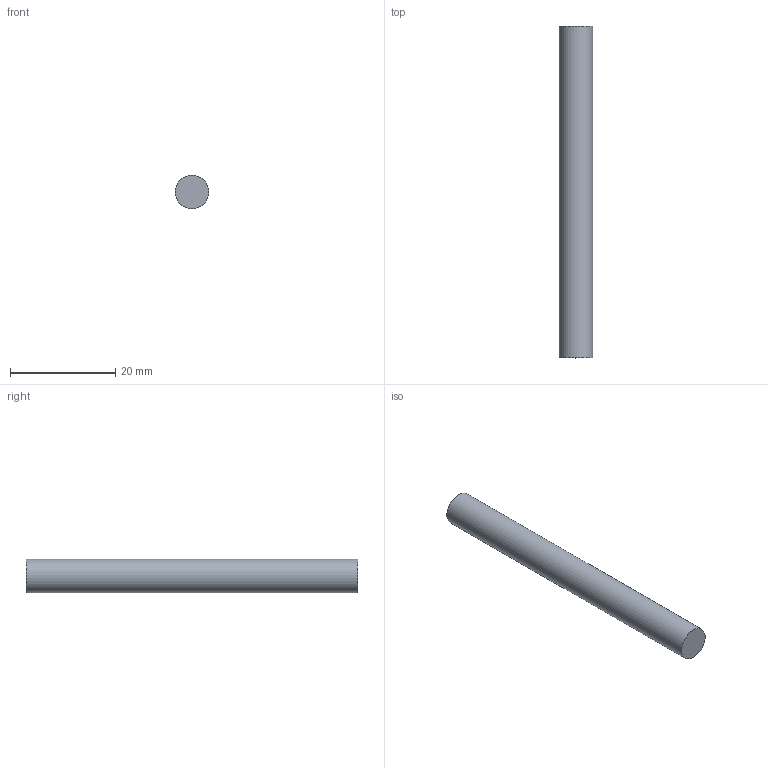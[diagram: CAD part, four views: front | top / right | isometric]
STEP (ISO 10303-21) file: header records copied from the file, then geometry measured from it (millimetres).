
FILE_DESCRIPTION(('Open CASCADE Model'),'2;1');
FILE_NAME('Open CASCADE Shape Model','2026-10-16T02:10:56',('Author'),( 'Open CASCADE'),'Open CASCADE STEP processor 7.9','Open CASCADE 7.9' ,'Unknown');
FILE_SCHEMA(('AUTOMOTIVE_DESIGN { 1 0 10303 214 1 1 1 1 }'));
Length unit declared in the file: millimetre
Products named in the file (1): Open CASCADE STEP translator 7.9 2
Bounding box: 6.34 x 63 x 6.34 mm (x, y, z)
Volume: 1995.2 mm3; surface area: 1320.1 mm2
Topology: 1 solids, 1 shells, 3 faces, 3 edges, 2 vertices
Faces by surface type: plane 2, cylinder 1
Full cylindrical faces by diameter (mm): 6.35 x1
Entity records: 108 total; most frequent: DIRECTION 19, CARTESIAN_POINT 15, AXIS2_PLACEMENT_3D 6, ORIENTED_EDGE 6, PCURVE 6, DEFINITIONAL_REPRESENTATION 6, LINE 5, VECTOR 5
